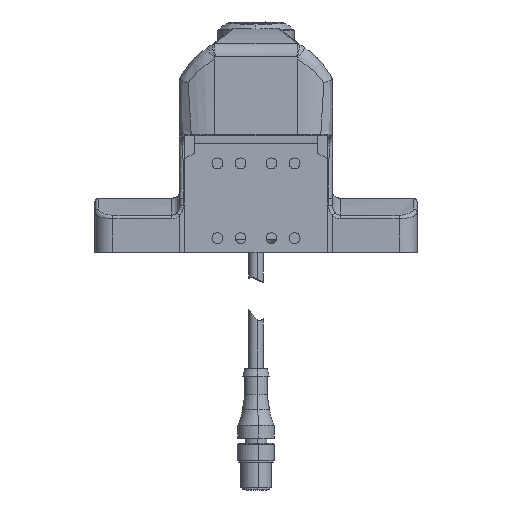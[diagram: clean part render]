
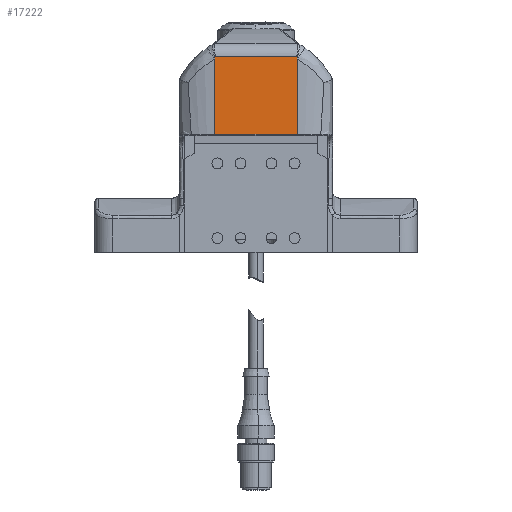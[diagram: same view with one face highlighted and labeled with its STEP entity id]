
A CAD part, left-side view. The second image highlights one B-rep face of the part: STEP entity #17222.
In plain terms, the highlighted planar face has unit normal (-1, 0, 0).
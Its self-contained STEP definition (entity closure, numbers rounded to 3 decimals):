
#294 = CARTESIAN_POINT ( 'NONE',  ( -26., 15.977, 30.928 ) ) ;
#427 = VERTEX_POINT ( 'NONE', #6934 ) ;
#596 = VECTOR ( 'NONE', #12279, 1000. ) ;
#687 = AXIS2_PLACEMENT_3D ( 'NONE', #20256, #6342, #13253 ) ;
#1345 = LINE ( 'NONE', #12169, #596 ) ;
#1709 = DIRECTION ( 'NONE',  ( 0., 0., 1. ) ) ;
#2331 = EDGE_CURVE ( 'NONE', #17812, #15653, #9173, .T. ) ;
#2848 = VECTOR ( 'NONE', #10732, 1000. ) ;
#2993 = CARTESIAN_POINT ( 'NONE',  ( -26., -16., 30.648 ) ) ;
#3055 = ORIENTED_EDGE ( 'NONE', *, *, #20835, .T. ) ;
#3409 = CARTESIAN_POINT ( 'NONE',  ( -26., 15.933, 31.153 ) ) ;
#3696 = CARTESIAN_POINT ( 'NONE',  ( -26., 62.541, 31.5 ) ) ;
#3751 = CARTESIAN_POINT ( 'NONE',  ( -26., 15.946, 31.09 ) ) ;
#4398 = B_SPLINE_CURVE_WITH_KNOTS ( 'NONE', 3,
 ( #9039, #21093, #5362, #17424, #14098, #19499, #10675, #5144, #15594, #5252, #3409, #7185, #17542, #17320, #19266, #12161, #13877, #3751, #294, #21330, #12386 ),
 .UNSPECIFIED., .F., .F.,
 ( 4, 1, 1, 1, 1, 2, 2, 1, 1, 1, 1, 1, 2, 2, 4 ),
 ( 0., 0.125, 0.187, 0.219, 0.234, 0.242, 0.25, 0.375, 0.437, 0.469, 0.484, 0.492, 0.496, 0.5, 1. ),
 .UNSPECIFIED. ) ;
#4479 = EDGE_LOOP ( 'NONE', ( #18596, #14232, #14592, #20103, #3055, #22343 ) ) ;
#4741 = FACE_OUTER_BOUND ( 'NONE', #4479, .T. ) ;
#5144 = CARTESIAN_POINT ( 'NONE',  ( -26., 15.902, 31.303 ) ) ;
#5203 = CARTESIAN_POINT ( 'NONE',  ( -26., 16., 30.648 ) ) ;
#5252 = CARTESIAN_POINT ( 'NONE',  ( -26., 15.917, 31.23 ) ) ;
#5362 = CARTESIAN_POINT ( 'NONE',  ( -26., 15.877, 31.429 ) ) ;
#6342 = DIRECTION ( 'NONE',  ( 1., 0., 0. ) ) ;
#6934 = CARTESIAN_POINT ( 'NONE',  ( -26., 15.866, 31.5 ) ) ;
#7185 = CARTESIAN_POINT ( 'NONE',  ( -26., 15.942, 31.107 ) ) ;
#7844 = PLANE ( 'NONE',  #687 ) ;
#7860 = CARTESIAN_POINT ( 'NONE',  ( -26., -16., 1.5 ) ) ;
#8765 = LINE ( 'NONE', #3696, #2848 ) ;
#9039 = CARTESIAN_POINT ( 'NONE',  ( -26., 15.866, 31.5 ) ) ;
#9173 = LINE ( 'NONE', #22593, #15665 ) ;
#10132 = CARTESIAN_POINT ( 'NONE',  ( -26., -15.973, 30.947 ) ) ;
#10675 = CARTESIAN_POINT ( 'NONE',  ( -26., 15.901, 31.308 ) ) ;
#10732 = DIRECTION ( 'NONE',  ( 0., -1., 0. ) ) ;
#11355 = EDGE_CURVE ( 'NONE', #15834, #17870, #14685, .T. ) ;
#11560 = CARTESIAN_POINT ( 'NONE',  ( -26., -16., 30.648 ) ) ;
#11826 = CARTESIAN_POINT ( 'NONE',  ( -26., -15.866, 31.5 ) ) ;
#11967 = CARTESIAN_POINT ( 'NONE',  ( -26., -15.866, 31.5 ) ) ;
#12161 = CARTESIAN_POINT ( 'NONE',  ( -26., 15.946, 31.089 ) ) ;
#12169 = CARTESIAN_POINT ( 'NONE',  ( -26., 16., 1.5 ) ) ;
#12196 = LINE ( 'NONE', #22615, #14193 ) ;
#12279 = DIRECTION ( 'NONE',  ( 0., -1., 0. ) ) ;
#12386 = CARTESIAN_POINT ( 'NONE',  ( -26., 16., 30.648 ) ) ;
#13253 = DIRECTION ( 'NONE',  ( 0., 0., -1. ) ) ;
#13792 = CARTESIAN_POINT ( 'NONE',  ( -26., -15.885, 31.367 ) ) ;
#13877 = CARTESIAN_POINT ( 'NONE',  ( -26., 15.946, 31.089 ) ) ;
#14098 = CARTESIAN_POINT ( 'NONE',  ( -26., 15.895, 31.333 ) ) ;
#14193 = VECTOR ( 'NONE', #1709, 1000. ) ;
#14232 = ORIENTED_EDGE ( 'NONE', *, *, #18777, .T. ) ;
#14592 = ORIENTED_EDGE ( 'NONE', *, *, #2331, .F. ) ;
#14685 = B_SPLINE_CURVE_WITH_KNOTS ( 'NONE', 3,
 ( #11967, #13792, #18857, #10132, #18744, #2993 ),
 .UNSPECIFIED., .F., .F.,
 ( 4, 2, 4 ),
 ( 0., 0.5, 1. ),
 .UNSPECIFIED. ) ;
#15594 = CARTESIAN_POINT ( 'NONE',  ( -26., 15.902, 31.302 ) ) ;
#15653 = VERTEX_POINT ( 'NONE', #5203 ) ;
#15665 = VECTOR ( 'NONE', #15831, 1000. ) ;
#15684 = EDGE_CURVE ( 'NONE', #427, #15834, #8765, .T. ) ;
#15831 = DIRECTION ( 'NONE',  ( 0., 0., 1. ) ) ;
#15834 = VERTEX_POINT ( 'NONE', #11826 ) ;
#17222 = ADVANCED_FACE ( 'NONE', ( #4741 ), #7844, .F. ) ;
#17320 = CARTESIAN_POINT ( 'NONE',  ( -26., 15.946, 31.091 ) ) ;
#17424 = CARTESIAN_POINT ( 'NONE',  ( -26., 15.889, 31.367 ) ) ;
#17542 = CARTESIAN_POINT ( 'NONE',  ( -26., 15.945, 31.094 ) ) ;
#17812 = VERTEX_POINT ( 'NONE', #18101 ) ;
#17870 = VERTEX_POINT ( 'NONE', #11560 ) ;
#18101 = CARTESIAN_POINT ( 'NONE',  ( -26., 16., 1.5 ) ) ;
#18596 = ORIENTED_EDGE ( 'NONE', *, *, #15684, .F. ) ;
#18744 = CARTESIAN_POINT ( 'NONE',  ( -26., -15.995, 30.8 ) ) ;
#18777 = EDGE_CURVE ( 'NONE', #427, #15653, #4398, .T. ) ;
#18857 = CARTESIAN_POINT ( 'NONE',  ( -26., -15.919, 31.231 ) ) ;
#19266 = CARTESIAN_POINT ( 'NONE',  ( -26., 15.946, 31.09 ) ) ;
#19499 = CARTESIAN_POINT ( 'NONE',  ( -26., 15.899, 31.316 ) ) ;
#20103 = ORIENTED_EDGE ( 'NONE', *, *, #21024, .T. ) ;
#20256 = CARTESIAN_POINT ( 'NONE',  ( -26., 16., 1. ) ) ;
#20835 = EDGE_CURVE ( 'NONE', #21440, #17870, #12196, .T. ) ;
#21024 = EDGE_CURVE ( 'NONE', #17812, #21440, #1345, .T. ) ;
#21093 = CARTESIAN_POINT ( 'NONE',  ( -26., 15.87, 31.474 ) ) ;
#21330 = CARTESIAN_POINT ( 'NONE',  ( -26., 15.995, 30.781 ) ) ;
#21440 = VERTEX_POINT ( 'NONE', #7860 ) ;
#22343 = ORIENTED_EDGE ( 'NONE', *, *, #11355, .F. ) ;
#22593 = CARTESIAN_POINT ( 'NONE',  ( -26., 16., 38.163 ) ) ;
#22615 = CARTESIAN_POINT ( 'NONE',  ( -26., -16., 38.163 ) ) ;
